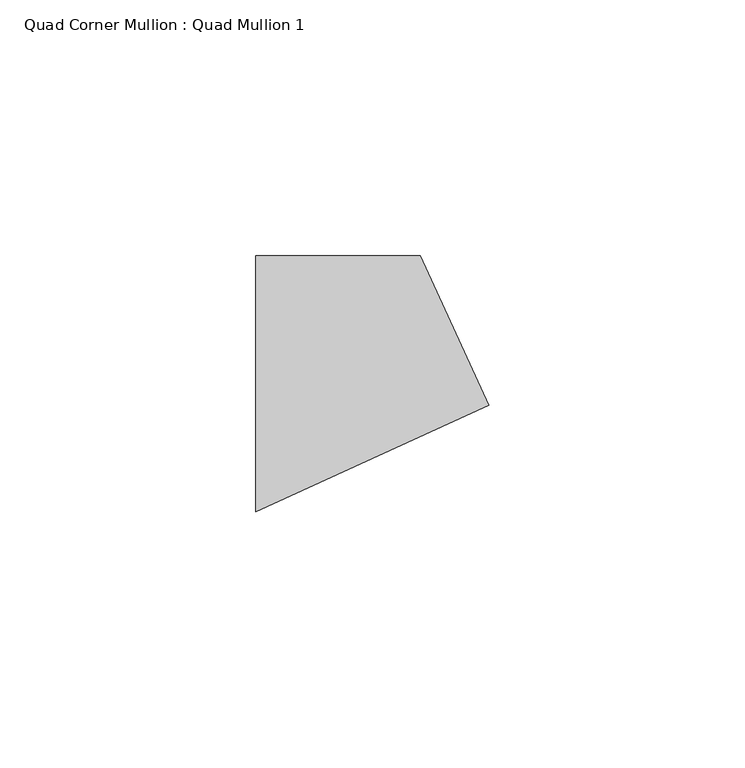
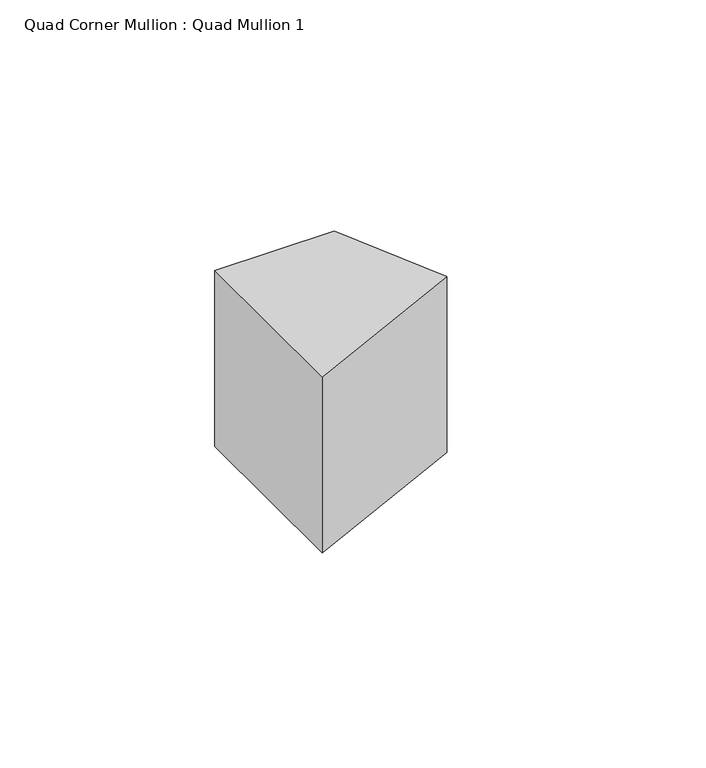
"""IFC4 building model written with IfcOpenShell, lengths in millimetres: member geometry, Quad Corner Mullion : Quad Mullion 1."""

from ifc_helpers import new_model, si_unit, frame, origin, place, context, project, spatial, polyline, outline, extrude, source, transform, mapped, element, save


def quad_corner_mullion_quad_mullion_1_27b403ca(model_context):
    return source(origin(), model_context, "Body", "SweptSolid", [
        extrude(outline(polyline([(29.4125559, -4.1926582), (-16.0523154, -25.0), (-16.0523154, 25.0), (16.0523154, 25.0), (29.4125559, -4.1926582)])), frame((0.0, 0.0, -50.0), z_axis=(0.0, 0.0, 1.0), x_axis=(1.0, 0.0, 0.0)), (0.0, 0.0, 1.0), 50.0),
    ])


if __name__ == "__main__":
    model = new_model("IFC4")
    model_context = context("Model", 3, world=origin())
    ifc_project = project(units=[si_unit("LENGTHUNIT", "METRE", prefix="MILLI")], contexts=[model_context])
    site = spatial("IfcSite", under=ifc_project)
    building = spatial("IfcBuilding", under=site)
    placement = place(None, origin())
    quad_corner_mullion_quad_mullion_1_shape = quad_corner_mullion_quad_mullion_1_27b403ca(model_context)
    element("IfcMember", 1, ObjectType="Quad Corner Mullion : Quad Mullion 1", at=placement, inside=building, context=model_context, shape_type="MappedRepresentation", body=[
        mapped(quad_corner_mullion_quad_mullion_1_shape, transform((0.0, 0.0, 0.0), x_axis=(1.0, 0.0, 0.0), y_axis=(0.0, 1.0, 0.0), z_axis=(0.0, 0.0, 1.0))),
    ])
    save(model, "model.ifc")
